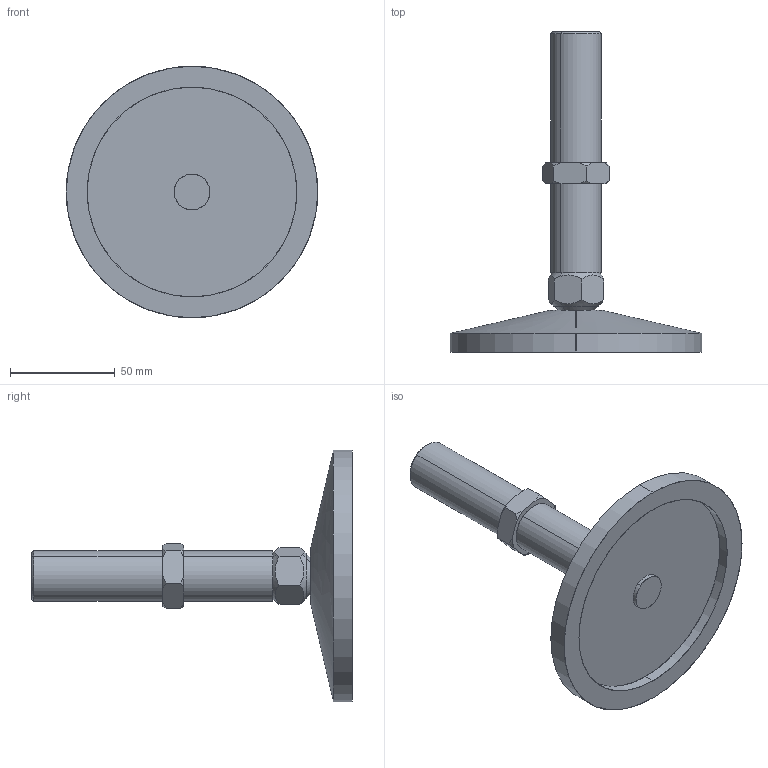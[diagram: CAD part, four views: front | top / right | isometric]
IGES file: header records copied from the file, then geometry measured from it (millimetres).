
Start section: SolidWorks IGES file using analytic representation for surfaces
Global section: file name: C:\Documents and Settings\URETIM3\Desktop\yeni katalog tolgay düzenli\A kataloðu\pabuc,saplama montajlarý\580 metal 590 paslanmaz taban sabit pabuç\PASLANMAZ\590 122 415.IGS; native system: SolidWorks 2006 by SolidWorks Corporation; preprocessor: SolidWorks 2006 by SolidWorks Corporation; author: URETIM3; date: 060911.190221; units: millimetre
Bounding box: 120 x 153 x 120 mm (x, y, z)
Surface area: 40584.9 mm2 (no closed solid volume)
Topology: 0 solids, 0 shells, 51 faces, 888 edges, 888 vertices
Faces by surface type: revolution 32, bspline 19
